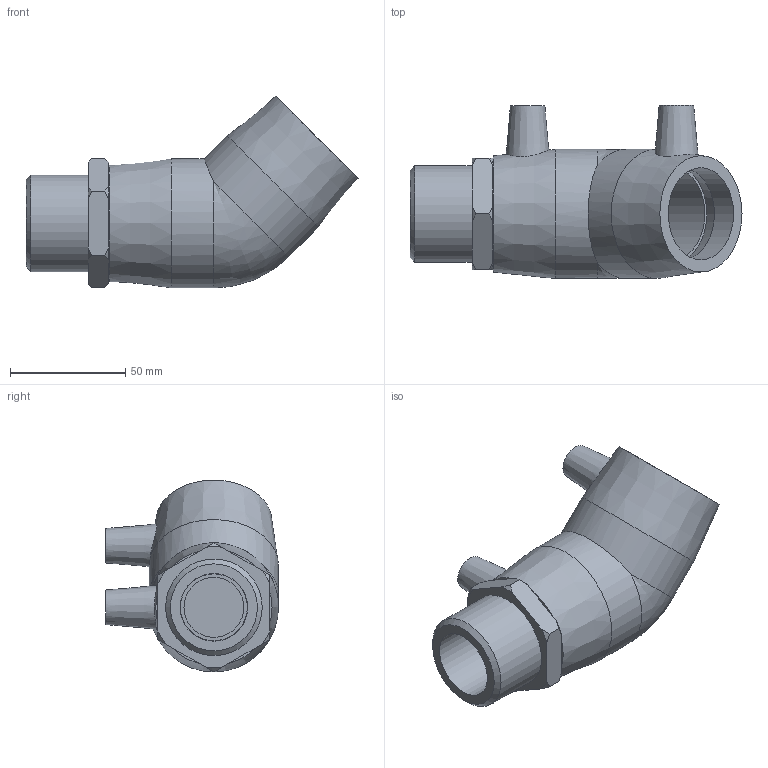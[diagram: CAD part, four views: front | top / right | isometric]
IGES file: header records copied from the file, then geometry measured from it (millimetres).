
Global section: file name: 492604040013.ipt; native system: Autodesk Inventor 2015; preprocessor: unknown; author: KIM; date: 20200202.122419; units: millimetre
Bounding box: 144 x 75 x 83.17 mm (x, y, z)
Volume: 197240.1 mm3; surface area: 46554.9 mm2
Topology: 1 solids, 2 shells, 59 faces, 142 edges, 97 vertices
Faces by surface type: plane 24, cone 17, revolution 10, cylinder 7, bspline 1
Full cylindrical faces by diameter (mm): 4 x2, 40 x2, 41.91 x1, 56 x2
